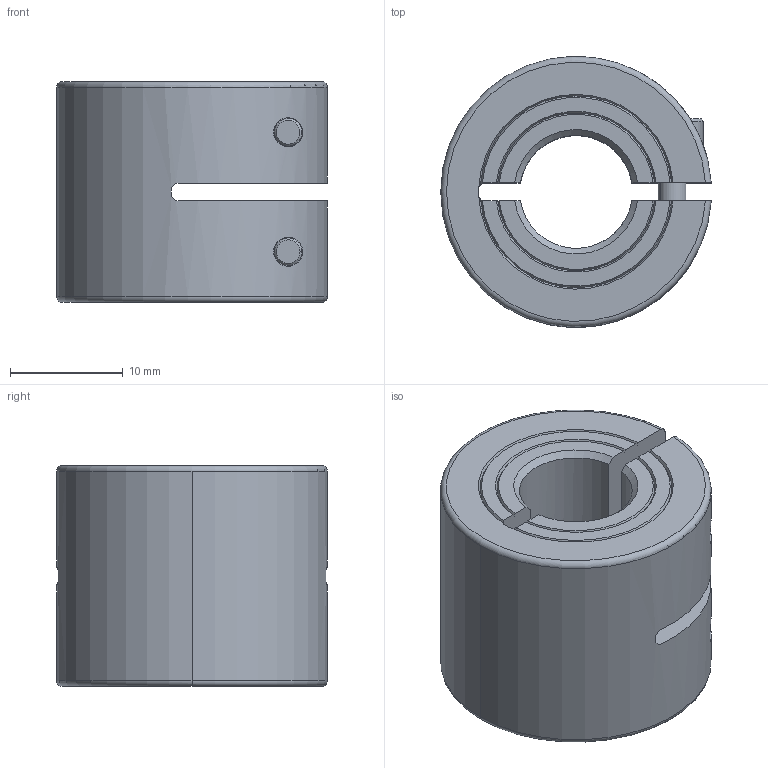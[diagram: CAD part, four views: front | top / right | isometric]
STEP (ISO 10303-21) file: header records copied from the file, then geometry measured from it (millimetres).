
FILE_DESCRIPTION (( 'STEP AP214' ), '1' );
FILE_NAME ('Ruland_MWCL-10-F.step', '2017-08-22T11:19:39', ( '' ), ( '' ), 'SwSTEP 2.0', 'SolidWorks 2017', '' );
FILE_SCHEMA (( 'AUTOMOTIVE_DESIGN' ));
Length unit declared in the file: metre
Products named in the file (3): Ruland_MWCL-10-F; MWCL Dbl Wide Collars_MWCL-10; Metric Socket Head Cap Screws 1a_CFM3_10
Assembly tree (3 placements, depth 2):
  Ruland_MWCL-10-F
    MWCL Dbl Wide Collars_MWCL-10
    Metric Socket Head Cap Screws 1a_CFM3_10  x2
Bounding box: 23.97 x 23.99 x 19.59 mm (x, y, z)
Volume: 6488.6 mm3; surface area: 4061 mm2
Topology: 3 solids, 3 shells, 94 faces, 237 edges, 155 vertices
Faces by surface type: plane 47, cylinder 24, cone 20, torus 3
Entity records: 2923 total; most frequent: CARTESIAN_POINT 744, ORIENTED_EDGE 398, DIRECTION 387, EDGE_CURVE 199, AXIS2_PLACEMENT_3D 146, VERTEX_POINT 131, VECTOR 95, LINE 95
